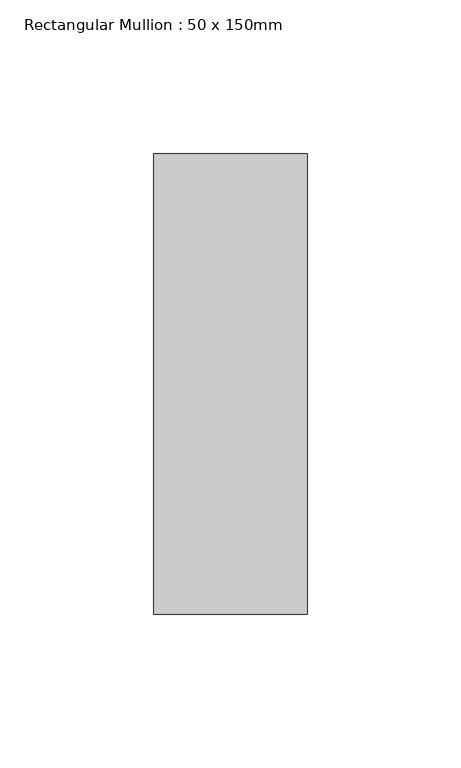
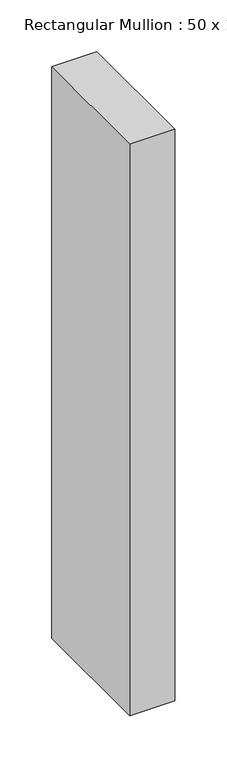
"""IFC4 building model written with IfcOpenShell, lengths in millimetres: member geometry, Rectangular Mullion : 50 x 150mm."""

from ifc_helpers import new_model, si_unit, frame, origin, place, context, project, spatial, polyline, outline, extrude, source, transform, mapped, element, save


def rectangular_mullion_50_x_150mm_ab79993e(model_context):
    return source(origin(), model_context, "Body", "SweptSolid", [
        extrude(outline(polyline([(0.0, 75.0), (0.0, -75.0), (-50.0, -75.0), (-50.0, 75.0), (0.0, 75.0)])), frame((0.0, 0.0, -672.1236419), z_axis=(0.0, 0.0, 1.0), x_axis=(1.0, 0.0, 0.0)), (0.0, 0.0, 1.0), 672.1236419),
    ])


if __name__ == "__main__":
    model = new_model("IFC4")
    model_context = context("Model", 3, world=origin())
    ifc_project = project(units=[si_unit("LENGTHUNIT", "METRE", prefix="MILLI")], contexts=[model_context])
    site = spatial("IfcSite", under=ifc_project)
    building = spatial("IfcBuilding", under=site)
    placement = place(None, origin())
    rectangular_mullion_50_x_150mm_shape = rectangular_mullion_50_x_150mm_ab79993e(model_context)
    element("IfcMember", 1, ObjectType="Rectangular Mullion : 50 x 150mm", at=placement, inside=building, context=model_context, shape_type="MappedRepresentation", body=[
        mapped(rectangular_mullion_50_x_150mm_shape, transform((0.0, 0.0, 0.0), x_axis=(1.0, 0.0, 0.0), y_axis=(0.0, 1.0, 0.0), z_axis=(0.0, 0.0, 1.0))),
    ])
    save(model, "model.ifc")
